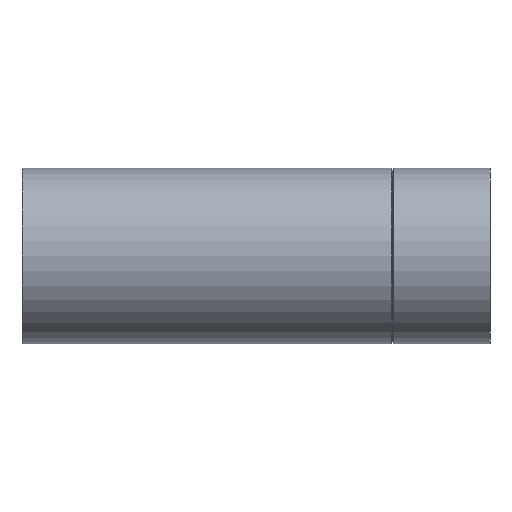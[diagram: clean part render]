
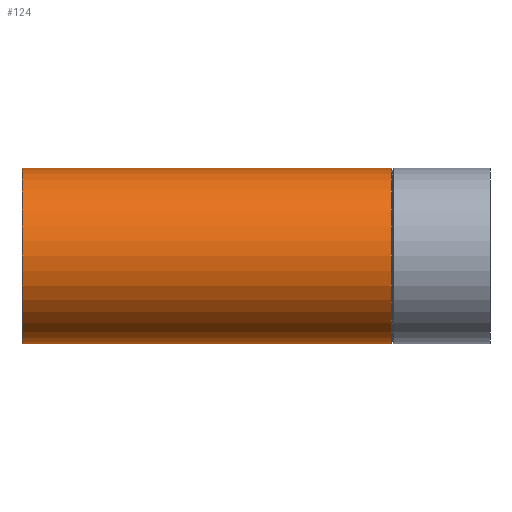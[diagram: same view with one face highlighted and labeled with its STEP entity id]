
A CAD part, left-side view. The second image highlights one B-rep face of the part: STEP entity #124.
In plain terms, the highlighted cylindrical face has radius 45 mm (diameter 90 mm), a full revolution.
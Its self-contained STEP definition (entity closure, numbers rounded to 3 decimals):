
#16=B_SPLINE_CURVE_WITH_KNOTS($,3,(#205,#206,#207,#208,#209,#210,#211,#212,
#213,#214,#215,#216,#217,#218,#219,#220,#221,#222,#223,#224,#225,#226,#227,
#228,#229,#230,#231,#232,#233,#234,#235,#236,#237,#238,#239,#240,#241,#242,
#243,#244,#245,#246,#247,#248,#249,#250,#251,#252,#253,#254,#255,#256,#257,
#258,#259,#260,#261,#262,#263,#264,#265,#266),.UNSPECIFIED.,.T.,.F.,(4,
2,2,2,2,2,2,2,2,2,2,2,2,2,2,2,2,2,2,2,2,2,2,2,2,2,2,2,2,2,4),(0.,0.941,
1.882,2.823,3.765,4.886,5.446,
6.007,6.568,7.128,8.249,9.191,
10.132,11.073,12.014,12.642,13.27,
13.898,14.527,15.106,15.686,16.133,
16.579,17.025,17.471,18.051,18.631,
19.259,19.887,20.515,21.143),
 .UNSPECIFIED.);
#18=CYLINDRICAL_SURFACE($,#140,45.);
#25=FACE_BOUND($,#49,.T.);
#26=FACE_BOUND($,#50,.T.);
#27=FACE_BOUND($,#51,.T.);
#49=EDGE_LOOP($,(#102));
#50=EDGE_LOOP($,(#103));
#51=EDGE_LOOP($,(#104));
#69=CIRCLE($,#139,45.);
#70=CIRCLE($,#141,45.);
#78=VERTEX_POINT($,#201);
#79=VERTEX_POINT($,#204);
#80=VERTEX_POINT($,#267);
#89=EDGE_CURVE($,#78,#78,#69,.T.);
#90=EDGE_CURVE($,#79,#79,#16,.T.);
#91=EDGE_CURVE($,#80,#80,#70,.T.);
#102=ORIENTED_EDGE($,*,*,#90,.T.);
#103=ORIENTED_EDGE($,*,*,#91,.T.);
#104=ORIENTED_EDGE($,*,*,#89,.T.);
#124=ADVANCED_FACE($,(#25,#26,#27),#18,.T.);
#139=AXIS2_PLACEMENT_3D($,#202,#164,#165);
#140=AXIS2_PLACEMENT_3D($,#203,#166,#167);
#141=AXIS2_PLACEMENT_3D($,#268,#168,#169);
#164=DIRECTION('center_axis',(0.,1.,0.));
#165=DIRECTION('ref_axis',(1.,0.,0.));
#166=DIRECTION('center_axis',(0.,1.,0.));
#167=DIRECTION('ref_axis',(1.,0.,0.));
#168=DIRECTION('center_axis',(0.,-1.,0.));
#169=DIRECTION('ref_axis',(1.,0.,0.));
#201=CARTESIAN_POINT('',(45.,50.52,0.));
#202=CARTESIAN_POINT('Origin',(0.,50.52,0.));
#203=CARTESIAN_POINT('Origin',(0.,0.,0.));
#204=CARTESIAN_POINT('',(35.228,115.228,28.));
#205=CARTESIAN_POINT('Ctrl Pts',(35.228,115.228,28.));
#206=CARTESIAN_POINT('Ctrl Pts',(35.228,118.365,28.));
#207=CARTESIAN_POINT('Ctrl Pts',(35.439,121.598,27.739));
#208=CARTESIAN_POINT('Ctrl Pts',(36.168,128.094,26.782));
#209=CARTESIAN_POINT('Ctrl Pts',(36.683,131.359,26.086));
#210=CARTESIAN_POINT('Ctrl Pts',(37.886,137.756,24.306));
#211=CARTESIAN_POINT('Ctrl Pts',(38.573,140.887,23.221));
#212=CARTESIAN_POINT('Ctrl Pts',(39.993,146.843,20.681));
#213=CARTESIAN_POINT('Ctrl Pts',(40.725,149.668,19.226));
#214=CARTESIAN_POINT('Ctrl Pts',(42.257,155.315,15.618));
#215=CARTESIAN_POINT('Ctrl Pts',(43.155,158.431,13.114));
#216=CARTESIAN_POINT('Ctrl Pts',(44.186,161.91,8.658));
#217=CARTESIAN_POINT('Ctrl Pts',(44.476,162.874,7.057));
#218=CARTESIAN_POINT('Ctrl Pts',(44.883,164.217,3.662));
#219=CARTESIAN_POINT('Ctrl Pts',(45.,164.598,1.869));
#220=CARTESIAN_POINT('Ctrl Pts',(45.,164.598,-1.869));
#221=CARTESIAN_POINT('Ctrl Pts',(44.883,164.217,-3.662));
#222=CARTESIAN_POINT('Ctrl Pts',(44.476,162.874,-7.057));
#223=CARTESIAN_POINT('Ctrl Pts',(44.186,161.91,-8.658));
#224=CARTESIAN_POINT('Ctrl Pts',(43.155,158.431,-13.114));
#225=CARTESIAN_POINT('Ctrl Pts',(42.257,155.315,-15.618));
#226=CARTESIAN_POINT('Ctrl Pts',(40.725,149.668,-19.226));
#227=CARTESIAN_POINT('Ctrl Pts',(39.993,146.843,-20.681));
#228=CARTESIAN_POINT('Ctrl Pts',(38.573,140.887,-23.221));
#229=CARTESIAN_POINT('Ctrl Pts',(37.886,137.756,-24.306));
#230=CARTESIAN_POINT('Ctrl Pts',(36.683,131.359,-26.086));
#231=CARTESIAN_POINT('Ctrl Pts',(36.168,128.094,-26.782));
#232=CARTESIAN_POINT('Ctrl Pts',(35.439,121.598,-27.739));
#233=CARTESIAN_POINT('Ctrl Pts',(35.228,118.365,-28.));
#234=CARTESIAN_POINT('Ctrl Pts',(35.228,113.134,-28.));
#235=CARTESIAN_POINT('Ctrl Pts',(35.323,110.95,-27.882));
#236=CARTESIAN_POINT('Ctrl Pts',(35.779,106.619,-27.295));
#237=CARTESIAN_POINT('Ctrl Pts',(36.141,104.472,-26.824));
#238=CARTESIAN_POINT('Ctrl Pts',(37.115,100.415,-25.459));
#239=CARTESIAN_POINT('Ctrl Pts',(37.729,98.498,-24.56));
#240=CARTESIAN_POINT('Ctrl Pts',(39.083,95.046,-22.343));
#241=CARTESIAN_POINT('Ctrl Pts',(39.82,93.508,-21.025));
#242=CARTESIAN_POINT('Ctrl Pts',(41.18,90.976,-18.205));
#243=CARTESIAN_POINT('Ctrl Pts',(41.879,89.826,-16.573));
#244=CARTESIAN_POINT('Ctrl Pts',(43.114,87.939,-13.028));
#245=CARTESIAN_POINT('Ctrl Pts',(43.645,87.199,-11.116));
#246=CARTESIAN_POINT('Ctrl Pts',(44.325,86.276,-7.894));
#247=CARTESIAN_POINT('Ctrl Pts',(44.583,85.938,-6.318));
#248=CARTESIAN_POINT('Ctrl Pts',(44.921,85.502,-3.115));
#249=CARTESIAN_POINT('Ctrl Pts',(45.,85.402,-1.487));
#250=CARTESIAN_POINT('Ctrl Pts',(45.,85.402,1.487));
#251=CARTESIAN_POINT('Ctrl Pts',(44.921,85.502,3.115));
#252=CARTESIAN_POINT('Ctrl Pts',(44.583,85.938,6.318));
#253=CARTESIAN_POINT('Ctrl Pts',(44.325,86.276,7.894));
#254=CARTESIAN_POINT('Ctrl Pts',(43.645,87.199,11.116));
#255=CARTESIAN_POINT('Ctrl Pts',(43.114,87.939,13.028));
#256=CARTESIAN_POINT('Ctrl Pts',(41.879,89.826,16.573));
#257=CARTESIAN_POINT('Ctrl Pts',(41.18,90.976,18.205));
#258=CARTESIAN_POINT('Ctrl Pts',(39.82,93.508,21.025));
#259=CARTESIAN_POINT('Ctrl Pts',(39.083,95.046,22.343));
#260=CARTESIAN_POINT('Ctrl Pts',(37.729,98.498,24.56));
#261=CARTESIAN_POINT('Ctrl Pts',(37.115,100.415,25.459));
#262=CARTESIAN_POINT('Ctrl Pts',(36.141,104.472,26.824));
#263=CARTESIAN_POINT('Ctrl Pts',(35.779,106.619,27.295));
#264=CARTESIAN_POINT('Ctrl Pts',(35.323,110.95,27.882));
#265=CARTESIAN_POINT('Ctrl Pts',(35.228,113.134,28.));
#266=CARTESIAN_POINT('Ctrl Pts',(35.228,115.228,28.));
#267=CARTESIAN_POINT('',(-45.,240.,0.));
#268=CARTESIAN_POINT('Origin',(0.,240.,0.));
